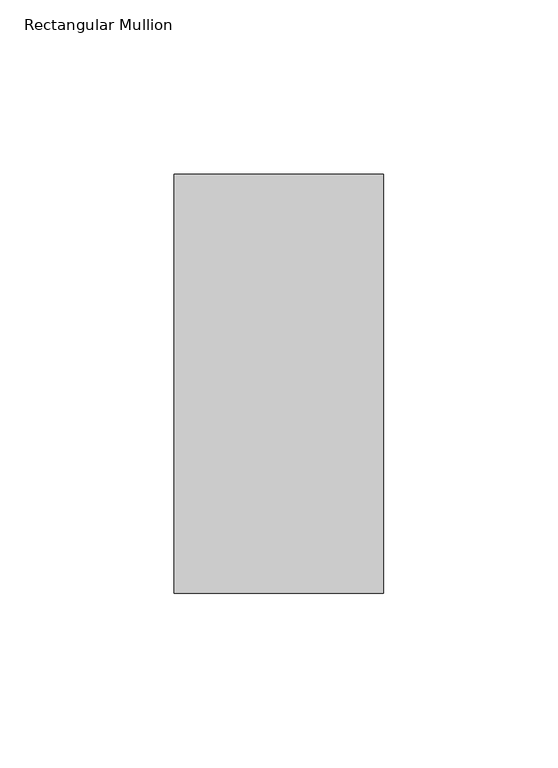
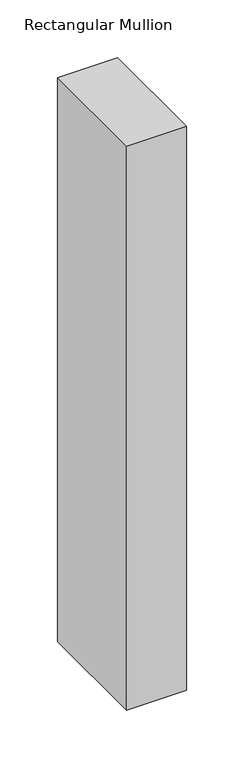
"""IFC4 building model written with IfcOpenShell, lengths in millimetres: member geometry, Rectangular Mullion : Terça."""

from ifc_helpers import new_model, si_unit, frame, origin, place, context, project, spatial, polyline, outline, extrude, source, transform, mapped, element, save


def rectangular_mullion_883ae41b(model_context):
    return source(origin(), model_context, "Body", "SweptSolid", [
        extrude(outline(polyline([(-60.0, -120.0), (-60.0, 0.0), (0.0, 0.0), (0.0, -120.0), (-60.0, -120.0)])), frame((0.0, 0.0, -597.0547564), z_axis=(0.0, 0.0, 1.0), x_axis=(1.0, 0.0, 0.0)), (0.0, 0.0, 1.0), 597.0547564),
    ])


if __name__ == "__main__":
    model = new_model("IFC4")
    model_context = context("Model", 3, world=origin())
    ifc_project = project(units=[si_unit("LENGTHUNIT", "METRE", prefix="MILLI")], contexts=[model_context])
    site = spatial("IfcSite", under=ifc_project)
    building = spatial("IfcBuilding", under=site)
    placement = place(None, origin())
    rectangular_mullion_shape = rectangular_mullion_883ae41b(model_context)
    element("IfcMember", 1, ObjectType="Rectangular Mullion : Terça", at=placement, inside=building, context=model_context, shape_type="MappedRepresentation", body=[
        mapped(rectangular_mullion_shape, transform((0.0, 0.0, 0.0), x_axis=(1.0, 0.0, 0.0), y_axis=(0.0, 1.0, 0.0), z_axis=(0.0, 0.0, 1.0))),
    ])
    save(model, "model.ifc")
